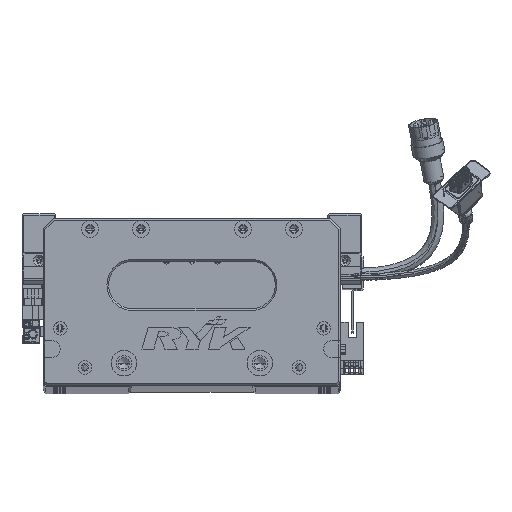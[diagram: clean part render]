
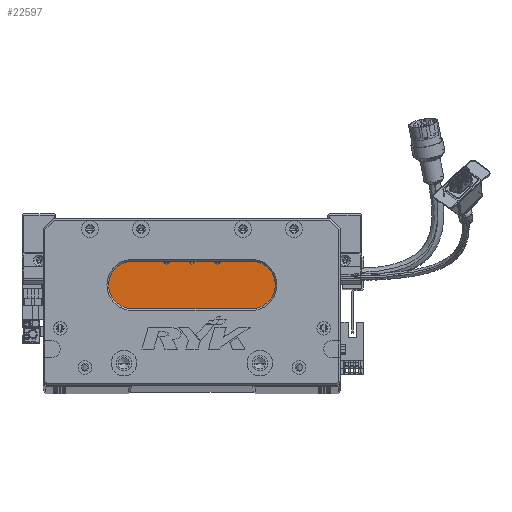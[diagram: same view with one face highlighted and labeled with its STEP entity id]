
A CAD part, top view. The second image highlights one B-rep face of the part: STEP entity #22597.
In plain terms, the highlighted planar face has unit normal (0, 0, 1) as drawn and (0, 0, -1) by its records, which use the part's own axes.
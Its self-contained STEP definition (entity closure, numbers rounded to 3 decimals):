
#1357 = AXIS2_PLACEMENT_3D ( 'NONE', #48751, #115704, #66946 ) ;
#2195 = DIRECTION ( 'NONE',  ( 1., 0., 0. ) ) ;
#2924 = EDGE_LOOP ( 'NONE', ( #57928, #33837, #108237, #96899, #86512 ) ) ;
#4759 = AXIS2_PLACEMENT_3D ( 'NONE', #120673, #120263, #90461 ) ;
#6730 = VECTOR ( 'NONE', #2195, 1000. ) ;
#16211 = CARTESIAN_POINT ( 'NONE',  ( 122.5, 73., 18. ) ) ;
#17723 = CARTESIAN_POINT ( 'NONE',  ( 52.5, 45., 18. ) ) ;
#22413 = VERTEX_POINT ( 'NONE', #17723 ) ;
#22597 = ADVANCED_FACE ( 'NONE', ( #82294 ), #77847, .T. ) ;
#25424 = VERTEX_POINT ( 'NONE', #30709 ) ;
#27943 = CIRCLE ( 'NONE', #35890, 14. ) ;
#30709 = CARTESIAN_POINT ( 'NONE',  ( 38.5, 59., 18. ) ) ;
#31210 = DIRECTION ( 'NONE',  ( -1., 0., 0. ) ) ;
#33589 = VECTOR ( 'NONE', #96235, 1000. ) ;
#33625 = CIRCLE ( 'NONE', #4759, 14. ) ;
#33837 = ORIENTED_EDGE ( 'NONE', *, *, #57807, .T. ) ;
#35890 = AXIS2_PLACEMENT_3D ( 'NONE', #49277, #78779, #31210 ) ;
#48751 = CARTESIAN_POINT ( 'NONE',  ( 122.5, 59., 18. ) ) ;
#49277 = CARTESIAN_POINT ( 'NONE',  ( 122.5, 59., 18. ) ) ;
#49620 = CARTESIAN_POINT ( 'NONE',  ( 122.5, 73., 18. ) ) ;
#50224 = LINE ( 'NONE', #49620, #6730 ) ;
#54918 = EDGE_CURVE ( 'NONE', #22413, #25424, #116876, .T. ) ;
#56133 = VERTEX_POINT ( 'NONE', #62965 ) ;
#57066 = EDGE_CURVE ( 'NONE', #56133, #74145, #50224, .T. ) ;
#57807 = EDGE_CURVE ( 'NONE', #86476, #22413, #98409, .T. ) ;
#57928 = ORIENTED_EDGE ( 'NONE', *, *, #63374, .T. ) ;
#62965 = CARTESIAN_POINT ( 'NONE',  ( 52.5, 73., 18. ) ) ;
#63374 = EDGE_CURVE ( 'NONE', #74145, #86476, #27943, .T. ) ;
#66946 = DIRECTION ( 'NONE',  ( -1., 0., 0. ) ) ;
#74145 = VERTEX_POINT ( 'NONE', #16211 ) ;
#77847 = PLANE ( 'NONE',  #1357 ) ;
#78779 = DIRECTION ( 'NONE',  ( 0., 0., -1. ) ) ;
#80104 = DIRECTION ( 'NONE',  ( 0., 0., -1. ) ) ;
#80926 = DIRECTION ( 'NONE',  ( -1., 0., 0. ) ) ;
#82294 = FACE_OUTER_BOUND ( 'NONE', #2924, .T. ) ;
#86476 = VERTEX_POINT ( 'NONE', #111591 ) ;
#86512 = ORIENTED_EDGE ( 'NONE', *, *, #57066, .T. ) ;
#90461 = DIRECTION ( 'NONE',  ( -1., 0., 0. ) ) ;
#96235 = DIRECTION ( 'NONE',  ( -1., 0., 0. ) ) ;
#96899 = ORIENTED_EDGE ( 'NONE', *, *, #102752, .T. ) ;
#98409 = LINE ( 'NONE', #116412, #33589 ) ;
#102752 = EDGE_CURVE ( 'NONE', #25424, #56133, #33625, .T. ) ;
#108237 = ORIENTED_EDGE ( 'NONE', *, *, #54918, .T. ) ;
#111591 = CARTESIAN_POINT ( 'NONE',  ( 122.5, 45., 18. ) ) ;
#115704 = DIRECTION ( 'NONE',  ( 0., 0., -1. ) ) ;
#116013 = AXIS2_PLACEMENT_3D ( 'NONE', #118371, #80104, #80926 ) ;
#116412 = CARTESIAN_POINT ( 'NONE',  ( 122.5, 45., 18. ) ) ;
#116876 = CIRCLE ( 'NONE', #116013, 14. ) ;
#118371 = CARTESIAN_POINT ( 'NONE',  ( 52.5, 59., 18. ) ) ;
#120263 = DIRECTION ( 'NONE',  ( 0., 0., -1. ) ) ;
#120673 = CARTESIAN_POINT ( 'NONE',  ( 52.5, 59., 18. ) ) ;
